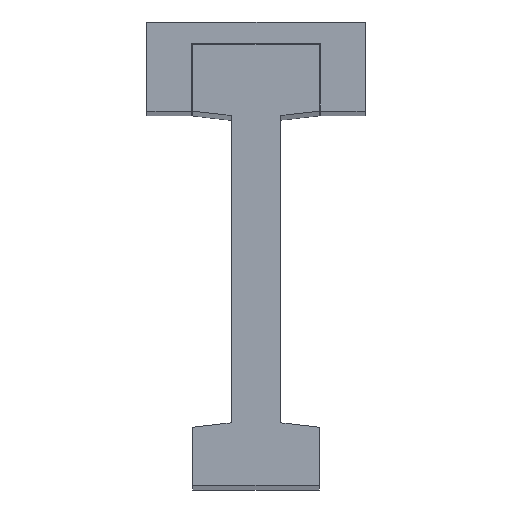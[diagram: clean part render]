
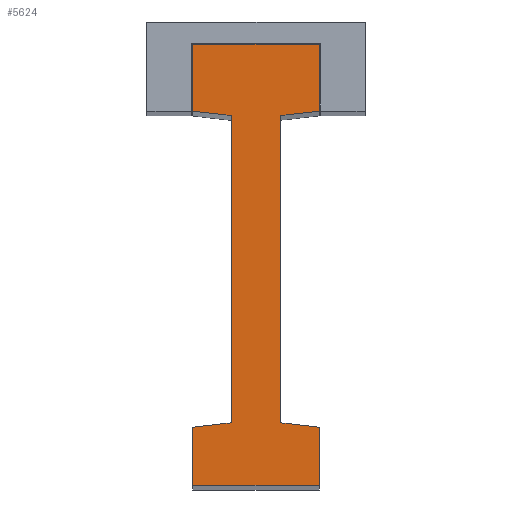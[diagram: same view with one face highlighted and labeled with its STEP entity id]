
A CAD part, top view. The second image highlights one B-rep face of the part: STEP entity #5624.
In plain terms, the highlighted planar face has unit normal (0, 0, 1).
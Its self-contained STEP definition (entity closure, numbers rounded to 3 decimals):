
#62 = LINE ( 'NONE', #5724, #6593 ) ;
#238 = EDGE_LOOP ( 'NONE', ( #8660, #4039, #6763, #1452, #6295, #1957, #8349, #4216, #2707, #712, #8161, #5630 ) ) ;
#359 = CARTESIAN_POINT ( 'NONE',  ( 86.45, 316.204, 905.517 ) ) ;
#452 = DIRECTION ( 'NONE',  ( 1., 0., 0. ) ) ;
#640 = VECTOR ( 'NONE', #9163, 1000. ) ;
#668 = CARTESIAN_POINT ( 'NONE',  ( 86.45, 217.204, 905.517 ) ) ;
#712 = ORIENTED_EDGE ( 'NONE', *, *, #3266, .T. ) ;
#994 = CARTESIAN_POINT ( 'NONE',  ( 66.6, 300.204, 905.517 ) ) ;
#1052 = VECTOR ( 'NONE', #8984, 1000. ) ;
#1226 = CARTESIAN_POINT ( 'NONE',  ( 86.45, 217.204, 905.517 ) ) ;
#1360 = EDGE_CURVE ( 'NONE', #7329, #9285, #8129, .T. ) ;
#1452 = ORIENTED_EDGE ( 'NONE', *, *, #9157, .T. ) ;
#1610 = EDGE_CURVE ( 'NONE', #9285, #8257, #6446, .T. ) ;
#1908 = CARTESIAN_POINT ( 'NONE',  ( 57.95, 217.204, 905.517 ) ) ;
#1932 = VERTEX_POINT ( 'NONE', #3525 ) ;
#1957 = ORIENTED_EDGE ( 'NONE', *, *, #4657, .T. ) ;
#2045 = CARTESIAN_POINT ( 'NONE',  ( 66.6, 298.704, 905.517 ) ) ;
#2116 = EDGE_CURVE ( 'NONE', #5812, #3331, #4603, .T. ) ;
#2125 = CARTESIAN_POINT ( 'NONE',  ( 77.8, 300.204, 905.517 ) ) ;
#2136 = DIRECTION ( 'NONE',  ( 0., -1., 0. ) ) ;
#2242 = CARTESIAN_POINT ( 'NONE',  ( 57.95, 316.204, 905.517 ) ) ;
#2349 = CARTESIAN_POINT ( 'NONE',  ( 57.95, 230.204, 905.517 ) ) ;
#2512 = CARTESIAN_POINT ( 'NONE',  ( 86.45, 316.204, 905.517 ) ) ;
#2547 = CARTESIAN_POINT ( 'NONE',  ( 57.95, 301.204, 905.517 ) ) ;
#2609 = VERTEX_POINT ( 'NONE', #7092 ) ;
#2667 = EDGE_CURVE ( 'NONE', #8684, #7329, #7717, .T. ) ;
#2688 = LINE ( 'NONE', #359, #7577 ) ;
#2707 = ORIENTED_EDGE ( 'NONE', *, *, #1610, .T. ) ;
#2716 = CARTESIAN_POINT ( 'NONE',  ( 77.8, 231.204, 905.517 ) ) ;
#3129 = DIRECTION ( 'NONE',  ( -0.993, 0.115, 0. ) ) ;
#3246 = LINE ( 'NONE', #2547, #7826 ) ;
#3266 = EDGE_CURVE ( 'NONE', #8257, #5812, #62, .T. ) ;
#3331 = VERTEX_POINT ( 'NONE', #2512 ) ;
#3409 = EDGE_CURVE ( 'NONE', #4688, #4000, #3246, .T. ) ;
#3424 = LINE ( 'NONE', #2045, #7564 ) ;
#3525 = CARTESIAN_POINT ( 'NONE',  ( 57.95, 230.204, 905.517 ) ) ;
#3683 = VECTOR ( 'NONE', #7478, 1000. ) ;
#3698 = DIRECTION ( 'NONE',  ( 0., -1., 0. ) ) ;
#3744 = DIRECTION ( 'NONE',  ( 0.993, 0.115, 0. ) ) ;
#3773 = VECTOR ( 'NONE', #7943, 1000. ) ;
#3860 = CARTESIAN_POINT ( 'NONE',  ( 57.95, 217.204, 905.517 ) ) ;
#3887 = LINE ( 'NONE', #2349, #1052 ) ;
#4000 = VERTEX_POINT ( 'NONE', #4270 ) ;
#4039 = ORIENTED_EDGE ( 'NONE', *, *, #3409, .F. ) ;
#4166 = CARTESIAN_POINT ( 'NONE',  ( 66.6, 231.204, 905.517 ) ) ;
#4216 = ORIENTED_EDGE ( 'NONE', *, *, #1360, .T. ) ;
#4270 = CARTESIAN_POINT ( 'NONE',  ( 57.95, 301.204, 905.517 ) ) ;
#4391 = VERTEX_POINT ( 'NONE', #7365 ) ;
#4588 = CARTESIAN_POINT ( 'NONE',  ( 86.45, 301.204, 905.517 ) ) ;
#4591 = CARTESIAN_POINT ( 'NONE',  ( 86.45, 230.204, 905.517 ) ) ;
#4603 = LINE ( 'NONE', #4699, #3683 ) ;
#4657 = EDGE_CURVE ( 'NONE', #7456, #8684, #7444, .T. ) ;
#4687 = VECTOR ( 'NONE', #3698, 1000. ) ;
#4688 = VERTEX_POINT ( 'NONE', #994 ) ;
#4699 = CARTESIAN_POINT ( 'NONE',  ( 86.45, 301.204, 905.517 ) ) ;
#4929 = DIRECTION ( 'NONE',  ( 0., 0., 1. ) ) ;
#4942 = EDGE_CURVE ( 'NONE', #4391, #4000, #8725, .T. ) ;
#5190 = DIRECTION ( 'NONE',  ( 1., 0., 0. ) ) ;
#5361 = VECTOR ( 'NONE', #8667, 1000. ) ;
#5419 = CARTESIAN_POINT ( 'NONE',  ( 77.8, 231.204, 905.517 ) ) ;
#5566 = DIRECTION ( 'NONE',  ( -1., 0., 0. ) ) ;
#5571 = CARTESIAN_POINT ( 'NONE',  ( 57.95, 217.204, 905.517 ) ) ;
#5615 = EDGE_CURVE ( 'NONE', #1932, #7456, #3887, .T. ) ;
#5624 = ADVANCED_FACE ( 'NONE', ( #6905 ), #6198, .T. ) ;
#5630 = ORIENTED_EDGE ( 'NONE', *, *, #5979, .T. ) ;
#5666 = LINE ( 'NONE', #4166, #640 ) ;
#5724 = CARTESIAN_POINT ( 'NONE',  ( 86.45, 301.204, 905.517 ) ) ;
#5812 = VERTEX_POINT ( 'NONE', #4588 ) ;
#5979 = EDGE_CURVE ( 'NONE', #3331, #4391, #2688, .T. ) ;
#6140 = DIRECTION ( 'NONE',  ( -0.993, 0.115, 0. ) ) ;
#6198 = PLANE ( 'NONE',  #6660 ) ;
#6295 = ORIENTED_EDGE ( 'NONE', *, *, #5615, .T. ) ;
#6446 = LINE ( 'NONE', #2716, #3773 ) ;
#6593 = VECTOR ( 'NONE', #3744, 1000. ) ;
#6660 = AXIS2_PLACEMENT_3D ( 'NONE', #1908, #4929, #452 ) ;
#6737 = CARTESIAN_POINT ( 'NONE',  ( 86.45, 230.204, 905.517 ) ) ;
#6763 = ORIENTED_EDGE ( 'NONE', *, *, #7889, .T. ) ;
#6905 = FACE_OUTER_BOUND ( 'NONE', #238, .T. ) ;
#7092 = CARTESIAN_POINT ( 'NONE',  ( 66.6, 231.204, 905.517 ) ) ;
#7097 = VECTOR ( 'NONE', #5190, 1000. ) ;
#7329 = VERTEX_POINT ( 'NONE', #4591 ) ;
#7365 = CARTESIAN_POINT ( 'NONE',  ( 57.95, 316.204, 905.517 ) ) ;
#7444 = LINE ( 'NONE', #3860, #7097 ) ;
#7456 = VERTEX_POINT ( 'NONE', #5571 ) ;
#7478 = DIRECTION ( 'NONE',  ( 0., 1., 0. ) ) ;
#7564 = VECTOR ( 'NONE', #2136, 1000. ) ;
#7577 = VECTOR ( 'NONE', #5566, 1000. ) ;
#7717 = LINE ( 'NONE', #1226, #5361 ) ;
#7826 = VECTOR ( 'NONE', #6140, 1000. ) ;
#7889 = EDGE_CURVE ( 'NONE', #4688, #2609, #3424, .T. ) ;
#7943 = DIRECTION ( 'NONE',  ( 0., 1., 0. ) ) ;
#8129 = LINE ( 'NONE', #6737, #9245 ) ;
#8161 = ORIENTED_EDGE ( 'NONE', *, *, #2116, .T. ) ;
#8257 = VERTEX_POINT ( 'NONE', #2125 ) ;
#8349 = ORIENTED_EDGE ( 'NONE', *, *, #2667, .T. ) ;
#8660 = ORIENTED_EDGE ( 'NONE', *, *, #4942, .T. ) ;
#8667 = DIRECTION ( 'NONE',  ( 0., 1., 0. ) ) ;
#8684 = VERTEX_POINT ( 'NONE', #668 ) ;
#8725 = LINE ( 'NONE', #2242, #4687 ) ;
#8984 = DIRECTION ( 'NONE',  ( 0., -1., 0. ) ) ;
#9157 = EDGE_CURVE ( 'NONE', #2609, #1932, #5666, .T. ) ;
#9163 = DIRECTION ( 'NONE',  ( -0.993, -0.115, 0. ) ) ;
#9245 = VECTOR ( 'NONE', #3129, 1000. ) ;
#9285 = VERTEX_POINT ( 'NONE', #5419 ) ;
